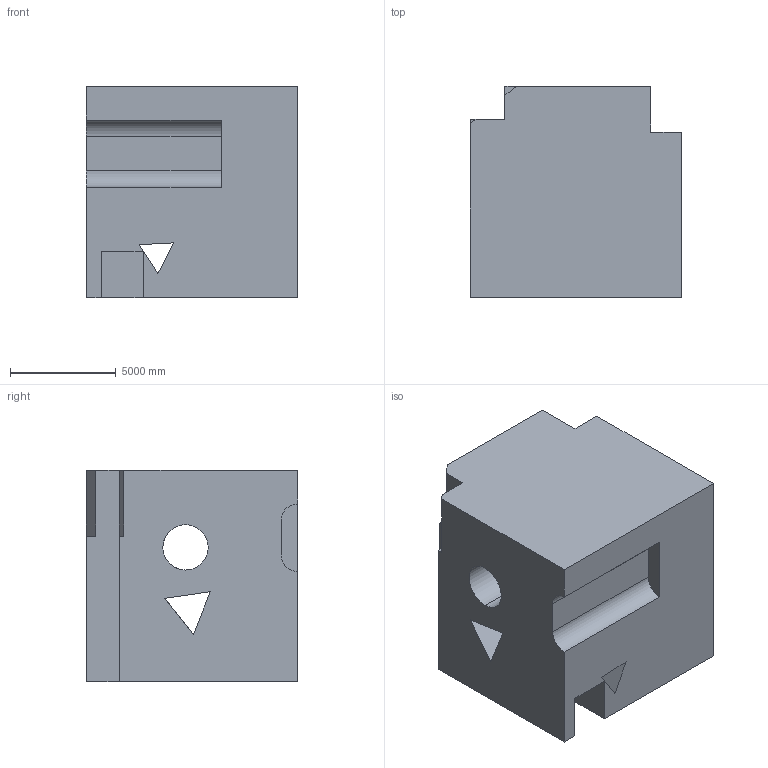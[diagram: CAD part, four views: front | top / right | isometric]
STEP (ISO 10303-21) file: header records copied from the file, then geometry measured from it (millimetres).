
FILE_DESCRIPTION (( 'STEP AP203' ), '1' );
FILE_NAME ('1845.STEP', '2022-08-19T13:28:27', ( 'user' ), ( '' ), 'SwSTEP 2.0', 'SolidWorks 2021', '' );
FILE_SCHEMA (( 'CONFIG_CONTROL_DESIGN' ));
Length unit declared in the file: centimetre
Products named in the file (1): 1845
Bounding box: 10000 x 10000 x 10000 mm (x, y, z)
Volume: 843566396891.3 mm3; surface area: 766082328.4 mm2
Topology: 1 solids, 1 shells, 36 faces, 114 edges, 76 vertices
Faces by surface type: plane 30, cylinder 6
Entity records: 1436 total; most frequent: CARTESIAN_POINT 327, ORIENTED_EDGE 228, DIRECTION 197, EDGE_CURVE 114, VECTOR 99, LINE 99, VERTEX_POINT 76, AXIS2_PLACEMENT_3D 49
